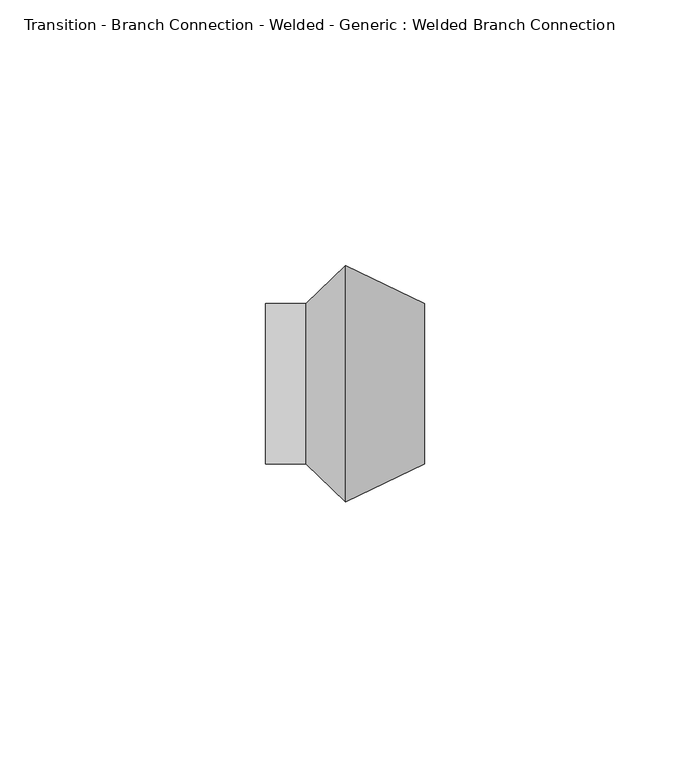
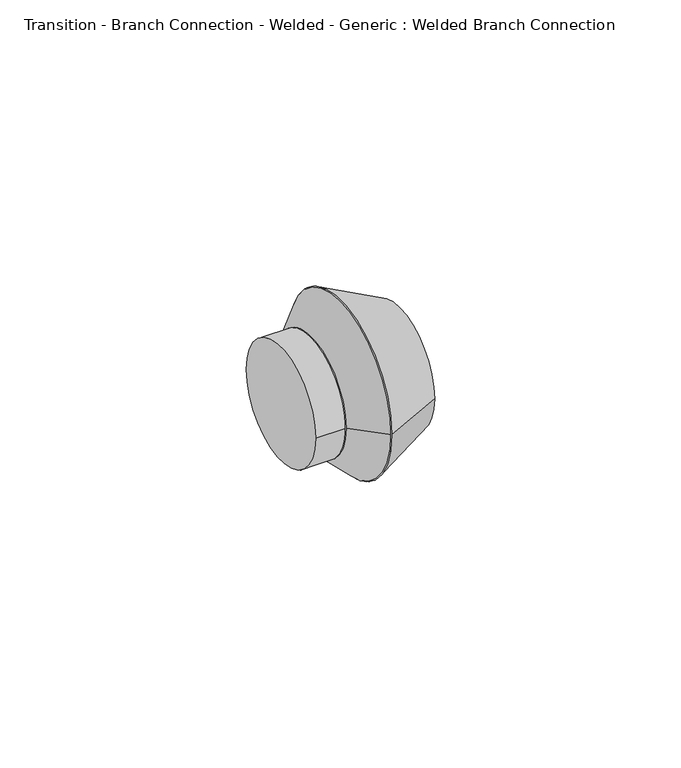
"""IFC4 building model written with IfcOpenShell, lengths in millimetres: pipe fitting geometry, Transition - Branch Connection - Welded - Generic : Welded Branch Connection."""

from ifc_helpers import new_model, si_unit, point, frame, origin, origin_2d, place, context, project, spatial, polyline, circle_curve, trimmed, segment, composite_curve, outline, extrude, source, transform, mapped, element, save
from ifc_brep_helpers import plane_surface, revolved_surface, advanced_brep


def transition_branch_connection_welded_generic_welded_branch_55e69a28(model_context):
    return source(origin(), model_context, "Body", "SolidModel", [
        advanced_brep(
        [(7.4083333, 22.225, 0.0), (7.4083333, -22.225, 0.0), (22.225, 15.08125, 0.0), (22.225, -15.08125, 0.0)],
        [
            (0, 1, circle_curve(frame((7.4083333, 0.0, 0.0), z_axis=(-1.0, 0.0, 0.0), x_axis=(0.0, -1.0, 0.0)), 22.225)),
            (1, 0, circle_curve(frame((7.4083333, 0.0, 0.0), z_axis=(-1.0, 0.0, 0.0), x_axis=(0.0, 1.0, 0.0)), 22.225)),
            (2, 3, circle_curve(frame((22.225, 0.0, 0.0), z_axis=(1.0, 0.0, 0.0), x_axis=(0.0, 1.0, 0.0)), 15.08125)),
            (3, 2, circle_curve(frame((22.225, 0.0, 0.0), z_axis=(1.0, 0.0, 0.0), x_axis=(0.0, -1.0, 0.0)), 15.08125)),
            (3, 1),
            (0, 2),
        ],
        [
            plane_surface(frame((7.4083333, 0.0, 0.0), z_axis=(-1.0, 0.0, 0.0), x_axis=(0.0, 0.0, -1.0))),
            plane_surface(frame((22.225, 0.0, 0.0), z_axis=(1.0, 0.0, 0.0), x_axis=(0.0, 0.0, -1.0))),
            revolved_surface(polyline([(22.225000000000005, -15.081249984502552, 0.0), (7.4083333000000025, -22.225, 0.0)]), (53.5046296, 0.0, 0.0), (-1.0, 0.0, 0.0)),
            revolved_surface(polyline([(22.225000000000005, 15.081249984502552, 0.0), (7.4083333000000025, 22.225, 0.0)]), (53.5046296, 0.0, 0.0), (-1.0, 0.0, 0.0)),
        ],
        [
            (0, [[1, 2]]),
            (1, [[3, 4]]),
            (2, [[5, -1, 6, -4]]),
            (3, [[-6, -2, -5, -3]]),
        ],
    ),
        advanced_brep(
        [(7.4083333, 22.225, 0.0), (7.4083333, -22.225, 0.0), (0.0, 15.08125, 0.0), (0.0, -15.08125, 0.0)],
        [
            (0, 1, circle_curve(frame((7.4083333, 0.0, 0.0), z_axis=(1.0, 0.0, 0.0), x_axis=(0.0, -1.0, 0.0)), 22.225)),
            (1, 0, circle_curve(frame((7.4083333, 0.0, 0.0), z_axis=(1.0, 0.0, 0.0), x_axis=(0.0, 1.0, 0.0)), 22.225)),
            (2, 3, circle_curve(frame((0.0, 0.0, 0.0), z_axis=(-1.0, 0.0, 0.0), x_axis=(0.0, 1.0, 0.0)), 15.08125)),
            (3, 2, circle_curve(frame((0.0, 0.0, 0.0), z_axis=(-1.0, 0.0, 0.0), x_axis=(0.0, -1.0, 0.0)), 15.08125)),
            (2, 0),
            (1, 3),
        ],
        [
            plane_surface(frame((7.4083333, 0.0, 0.0), z_axis=(1.0, 0.0, 0.0), x_axis=(0.0, 0.0, -1.0))),
            plane_surface(frame((0.0, 0.0, 0.0), z_axis=(-1.0, 0.0, 0.0), x_axis=(0.0, 0.0, -1.0))),
            revolved_surface(polyline([(0.0, 15.08125001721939, 0.0), (7.408333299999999, 22.225, 0.0)]), (-15.6398148, 0.0, 0.0), (1.0, 0.0, 0.0)),
            revolved_surface(polyline([(0.0, -15.08125001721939, 0.0), (7.408333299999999, -22.225, 0.0)]), (-15.6398148, 0.0, 0.0), (1.0, 0.0, 0.0)),
        ],
        [
            (0, [[1, 2]]),
            (1, [[3, 4]]),
            (2, [[5, -2, 6, -3]]),
            (3, [[-6, -1, -5, -4]]),
        ],
    ),
        extrude(outline(composite_curve([segment(trimmed(circle_curve(origin_2d(), 15.08125), [point((15.08125, 0.0))], [point((-15.08125, 0.0))], False, "CARTESIAN"), True, "CONTINUOUS"), segment(trimmed(circle_curve(origin_2d(), 15.08125), [point((-15.08125, 0.0))], [point((15.08125, 0.0))], False, "CARTESIAN"), True, "CONTINUOUS")], self_intersect=False)), frame((-7.640234, 0.0, 0.0), z_axis=(1.0, 0.0, 0.0), x_axis=(0.0, 1.0, 0.0)), (0.0, 0.0, 1.0), 7.640234),
    ])


if __name__ == "__main__":
    model = new_model("IFC4")
    model_context = context("Model", 3, world=origin())
    ifc_project = project(units=[si_unit("LENGTHUNIT", "METRE", prefix="MILLI")], contexts=[model_context])
    site = spatial("IfcSite", under=ifc_project)
    building = spatial("IfcBuilding", under=site)
    placement = place(None, origin())
    transition_branch_connection_welded_generic_welded_branch_shape = transition_branch_connection_welded_generic_welded_branch_55e69a28(model_context)
    element("IfcPipeFitting", 1, ObjectType="Transition - Branch Connection - Welded - Generic : Welded Branch Connection", at=placement, inside=building, context=model_context, shape_type="MappedRepresentation", body=[
        mapped(transition_branch_connection_welded_generic_welded_branch_shape, transform((0.0, 0.0, 0.0), x_axis=(1.0, 0.0, 0.0), y_axis=(0.0, 1.0, 0.0), z_axis=(0.0, 0.0, 1.0))),
    ])
    save(model, "model.ifc")
